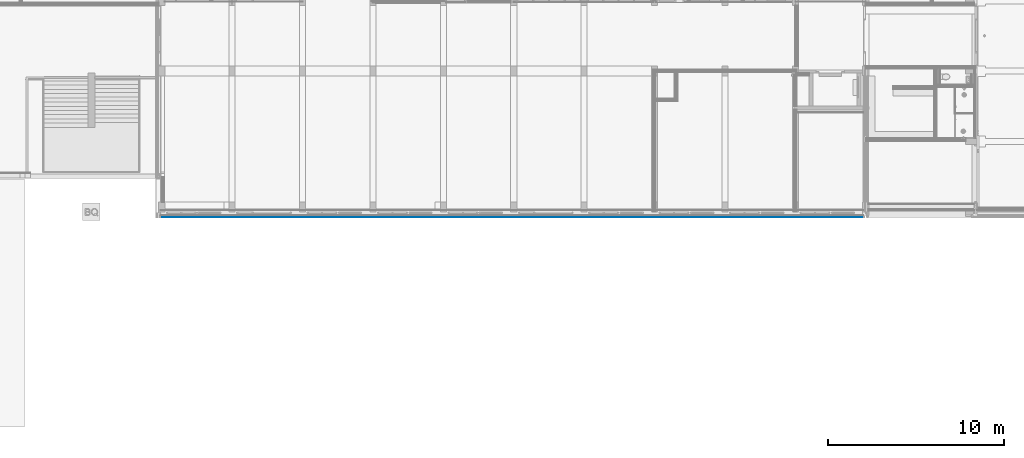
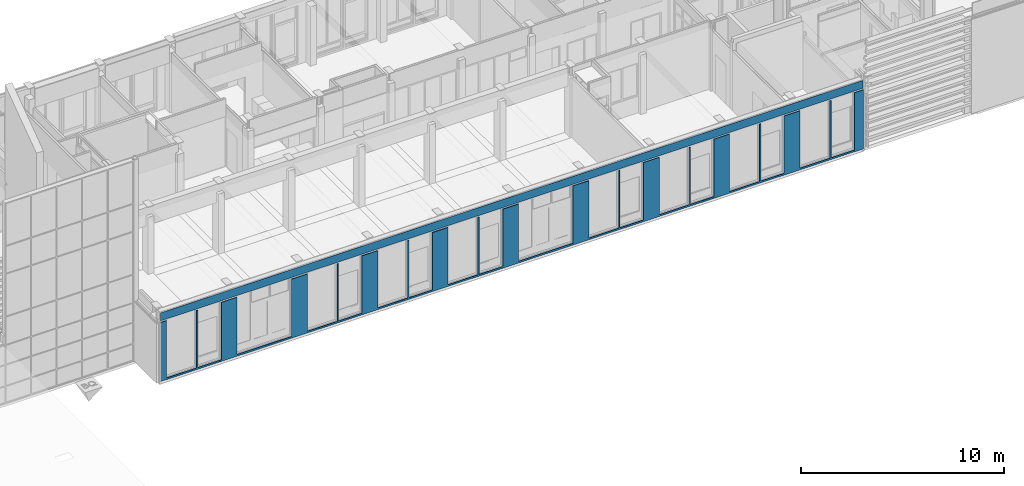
# One storey, part 53 of 109: 1 building element part, 18 openings, 1 element without a shape of its own.
"""IFC2X3 building model written with IfcOpenShell, lengths in millimetres."""

from ifc_helpers import new_model, entity, si_unit, converted_unit, derived_unit, money_unit, direction, frame, origin_with_axes, place, context, subcontext, project, spatial, faceted_brep, material, type_object, element, aggregate, save


model = new_model("IFC2X3")

# Units and contexts
model_context = context("Model", 3, precision=0.01, world=origin_with_axes(), true_north=direction((0.0, 1.0)))
body_context = subcontext(model_context, "Body", "Model", "MODEL_VIEW")
ifc_project = project(units=[si_unit("LENGTHUNIT", "METRE", prefix="MILLI"), si_unit("AREAUNIT", "SQUARE_METRE"), si_unit("VOLUMEUNIT", "CUBIC_METRE"), converted_unit("PLANEANGLEUNIT", "DEGREE", entity("IfcPlaneAngleMeasure", 0.0174532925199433), si_unit("PLANEANGLEUNIT", "RADIAN"), dimensions=[0, 0, 0, 0, 0, 0, 0]), money_unit("EUR"), converted_unit("TIMEUNIT", "Year", entity("IfcTimeMeasure", 31557600.0), si_unit("TIMEUNIT", "SECOND"), dimensions=[0, 0, 1, 0, 0, 0, 0]), si_unit("MASSUNIT", "GRAM", prefix="KILO"), si_unit("THERMODYNAMICTEMPERATUREUNIT", "DEGREE_CELSIUS"), si_unit("LUMINOUSINTENSITYUNIT", "LUMEN"), si_unit("ENERGYUNIT", "JOULE", prefix="MEGA"), derived_unit("THERMALCONDUCTANCEUNIT", [(si_unit("POWERUNIT", "WATT"), 1), (si_unit("LENGTHUNIT", "METRE"), -1), (si_unit("THERMODYNAMICTEMPERATUREUNIT", "KELVIN"), -1)]), derived_unit("SPECIFICHEATCAPACITYUNIT", [(si_unit("ENERGYUNIT", "JOULE"), 1), (si_unit("MASSUNIT", "GRAM", prefix="KILO"), -1), (si_unit("THERMODYNAMICTEMPERATUREUNIT", "KELVIN"), -1)]), derived_unit("MASSDENSITYUNIT", [(si_unit("MASSUNIT", "GRAM", prefix="KILO"), 1), (si_unit("VOLUMEUNIT", "CUBIC_METRE"), -1)])], contexts=[model_context])

# Site, building, storey
site_placement = place(None, origin_with_axes())
site = spatial("IfcSite", under=ifc_project, at=site_placement, Name="<site naam>", CompositionType="ELEMENT")
building_placement = place(site_placement, origin_with_axes())
building = spatial("IfcBuilding", under=site, at=building_placement, Name="<Naam gebouw>", CompositionType="ELEMENT")
storey_placement = place(building_placement, origin_with_axes())
storey = spatial("IfcBuildingStorey", under=building, at=storey_placement, Name="00 Begane grond", CompositionType="ELEMENT", Elevation=0.0)

# Wall, openings, building element part
wall_type = type_object("IfcWallType", Name="HSB_285 gevelbeplating 420", PredefinedType="NOTDEFINED")
wall_placement = place(storey_placement, frame((51865.00000000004, -297.9999999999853, 0.0), z_axis=(0.0, 0.0, 1.0), x_axis=(-1.0, 0.0, 0.0)))
wall = element("IfcWall", 1, at=wall_placement, inside=storey, type_object=wall_type, Name="21_Binnenwand_HSB_285")
opening_1_placement = place(wall_placement, frame((37163.99999999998, 0.0, 100.0), z_axis=(0.0, 0.0, 1.0), x_axis=(1.0, 0.0, 0.0)))
element("IfcOpeningElement", 2, at=opening_1_placement, cuts=wall, Name="21_BU-A-01b_305", context=body_context, shape_type="Brep", body=[
    faceted_brep([(-663.0000000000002, -212.9999999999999, 0.0), (-663.0000000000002, -212.9999999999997, 3450.0), (-663.0000000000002, 1.000000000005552, 3450.0), (-663.0000000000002, 1.00000000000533, 0.0), (-663.0000000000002, -421.0000000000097, 0.0), (-663.0000000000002, -421.0000000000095, 3450.0), (663.0000000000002, -212.9999999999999, 3450.0), (663.0000000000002, 1.000000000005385, 3450.0), (663.0000000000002, 1.000000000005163, 0.0), (663.0000000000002, -213.0000000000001, 0.0), (663.0000000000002, -421.0000000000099, 0.0), (663.0000000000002, -421.0000000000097, 3450.0)], [[[0, 1, 2, 3]], [[1, 0, 4, 5]], [[1, 6, 7, 2]], [[7, 8, 3, 2]], [[9, 0, 3, 8]], [[0, 9, 10, 4]], [[5, 4, 10, 11]], [[6, 1, 5, 11]], [[6, 9, 8, 7]], [[9, 6, 11, 10]]]),
])
opening_2_placement = place(wall_placement, frame((38753.9999887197, 0.0, 100.0), z_axis=(0.0, 0.0, 1.0), x_axis=(1.0, 0.0, 0.0)))
element("IfcOpeningElement", 3, at=opening_2_placement, cuts=wall, Name="21_BU-A-01a_305", context=body_context, shape_type="Brep", body=[
    faceted_brep([(-850.9999999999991, -212.9999999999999, 0.0), (-850.9999999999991, -212.9999999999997, 3450.0), (-850.9999999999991, 1.000000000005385, 3450.0), (-850.9999999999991, 1.000000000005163, 0.0), (-850.9999999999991, -421.0000000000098, 0.0), (-850.9999999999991, -421.0000000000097, 3450.0), (850.9999999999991, -212.9999999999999, 3450.0), (851.0000000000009, 1.000000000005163, 3450.0), (851.0000000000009, 1.000000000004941, 0.0), (850.9999999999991, -213.0000000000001, 0.0), (850.9999999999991, -421.00000000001, 0.0), (850.9999999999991, -421.0000000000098, 3450.0)], [[[0, 1, 2, 3]], [[1, 0, 4, 5]], [[1, 6, 7, 2]], [[7, 8, 3, 2]], [[9, 0, 3, 8]], [[0, 9, 10, 4]], [[5, 4, 10, 11]], [[6, 1, 5, 11]], [[6, 9, 8, 7]], [[9, 6, 11, 10]]]),
])
opening_3_placement = place(wall_placement, frame((29164.04998845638, 0.0, 100.0), z_axis=(0.0, 0.0, 1.0), x_axis=(1.0, 0.0, 0.0)))
element("IfcOpeningElement", 4, at=opening_3_placement, cuts=wall, Name="21_BU-A-01b_305", context=body_context, shape_type="Brep", body=[
    faceted_brep([(-663.0000000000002, -212.9999999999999, 0.0), (-663.0000000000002, -212.9999999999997, 3450.0), (-663.0000000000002, 1.000000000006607, 3450.0), (-663.0000000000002, 1.000000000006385, 0.0), (-663.0000000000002, -421.0000000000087, 0.0), (-663.0000000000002, -421.0000000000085, 3450.0), (663.0000000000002, -212.9999999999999, 3450.0), (663.0000000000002, 1.000000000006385, 3450.0), (663.0000000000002, 1.000000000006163, 0.0), (663.0000000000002, -213.0000000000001, 0.0), (663.0000000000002, -421.0000000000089, 0.0), (663.0000000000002, -421.0000000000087, 3450.0)], [[[0, 1, 2, 3]], [[1, 0, 4, 5]], [[1, 6, 7, 2]], [[7, 8, 3, 2]], [[9, 0, 3, 8]], [[0, 9, 10, 4]], [[5, 4, 10, 11]], [[6, 1, 5, 11]], [[6, 9, 8, 7]], [[9, 6, 11, 10]]]),
])
opening_4_placement = place(wall_placement, frame((26754.00000000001, 0.0, 100.0), z_axis=(0.0, 0.0, 1.0), x_axis=(1.0, 0.0, 0.0)))
element("IfcOpeningElement", 5, at=opening_4_placement, cuts=wall, Name="21_BU-A-01a_305", context=body_context, shape_type="Brep", body=[
    faceted_brep([(-850.9999999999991, -212.9999999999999, 0.0), (-850.9999999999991, -212.9999999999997, 3450.0), (-850.9999999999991, 1.000000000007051, 3450.0), (-850.9999999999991, 1.000000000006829, 0.0), (-850.9999999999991, -421.0000000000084, 0.0), (-850.9999999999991, -421.0000000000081, 3450.0), (850.9999999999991, -212.9999999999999, 3450.0), (850.9999999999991, 1.000000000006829, 3450.0), (850.9999999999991, 1.000000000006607, 0.0), (850.9999999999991, -213.0000000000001, 0.0), (850.9999999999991, -421.0000000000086, 0.0), (850.9999999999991, -421.0000000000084, 3450.0)], [[[0, 1, 2, 3]], [[1, 0, 4, 5]], [[1, 6, 7, 2]], [[7, 8, 3, 2]], [[9, 0, 3, 8]], [[0, 9, 10, 4]], [[5, 4, 10, 11]], [[6, 1, 5, 11]], [[6, 9, 8, 7]], [[9, 6, 11, 10]]]),
])
opening_5_placement = place(wall_placement, frame((25163.98053643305, 0.0, 100.0), z_axis=(0.0, 0.0, 1.0), x_axis=(1.0, 0.0, 0.0)))
element("IfcOpeningElement", 6, at=opening_5_placement, cuts=wall, Name="21_BU-A-01b_305", context=body_context, shape_type="Brep", body=[
    faceted_brep([(-663.0000000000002, -212.9999999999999, 0.0), (-663.0000000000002, -212.9999999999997, 3450.0), (-663.0000000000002, 1.000000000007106, 3450.0), (-663.0000000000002, 1.000000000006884, 0.0), (-663.0000000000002, -421.0000000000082, 0.0), (-663.0000000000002, -421.000000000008, 3450.0), (663.0000000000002, -212.9999999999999, 3450.0), (663.0000000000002, 1.00000000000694, 3450.0), (663.0000000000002, 1.000000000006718, 0.0), (663.0000000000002, -213.0000000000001, 0.0), (663.0000000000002, -421.0000000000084, 0.0), (663.0000000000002, -421.0000000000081, 3450.0)], [[[0, 1, 2, 3]], [[1, 0, 4, 5]], [[1, 6, 7, 2]], [[7, 8, 3, 2]], [[9, 0, 3, 8]], [[0, 9, 10, 4]], [[5, 4, 10, 11]], [[6, 1, 5, 11]], [[6, 9, 8, 7]], [[9, 6, 11, 10]]]),
])
opening_6_placement = place(wall_placement, frame((13164.00001128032, 0.0, 100.0), z_axis=(0.0, 0.0, 1.0), x_axis=(1.0, 0.0, 0.0)))
element("IfcOpeningElement", 7, at=opening_6_placement, cuts=wall, Name="21_BU-A-01b_305", context=body_context, shape_type="Brep", body=[
    faceted_brep([(-662.9999999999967, -212.9999999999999, 0.0), (-662.9999999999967, -212.9999999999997, 3450.0), (-662.9999999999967, 1.000000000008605, 3450.0), (-662.9999999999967, 1.000000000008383, 0.0), (-662.9999999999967, -421.0000000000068, 0.0), (-662.9999999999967, -421.0000000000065, 3450.0), (662.9999999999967, -212.9999999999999, 3450.0), (662.9999999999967, 1.000000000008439, 3450.0), (662.9999999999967, 1.000000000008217, 0.0), (662.9999999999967, -213.0000000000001, 0.0), (662.9999999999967, -421.0000000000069, 0.0), (662.9999999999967, -421.0000000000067, 3450.0)], [[[0, 1, 2, 3]], [[1, 0, 4, 5]], [[1, 6, 7, 2]], [[7, 8, 3, 2]], [[9, 0, 3, 8]], [[0, 9, 10, 4]], [[5, 4, 10, 11]], [[6, 1, 5, 11]], [[6, 9, 8, 7]], [[9, 6, 11, 10]]]),
])
opening_7_placement = place(wall_placement, frame((21164.00000000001, 0.0, 100.0), z_axis=(0.0, 0.0, 1.0), x_axis=(1.0, 0.0, 0.0)))
element("IfcOpeningElement", 8, at=opening_7_placement, cuts=wall, Name="21_BU-A-01b_305", context=body_context, shape_type="Brep", body=[
    faceted_brep([(-663.0000000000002, -212.9999999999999, 0.0), (-663.0000000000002, -212.9999999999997, 3450.0), (-663.0000000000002, 1.000000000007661, 3450.0), (-663.0000000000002, 1.000000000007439, 0.0), (-663.0000000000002, -421.0000000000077, 0.0), (-663.0000000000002, -421.0000000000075, 3450.0), (663.0000000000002, -212.9999999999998, 3450.0), (663.0000000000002, 1.000000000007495, 3450.0), (663.0000000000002, 1.000000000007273, 0.0), (663.0000000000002, -213.0000000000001, 0.0), (663.0000000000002, -421.0000000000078, 0.0), (663.0000000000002, -421.0000000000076, 3450.0)], [[[0, 1, 2, 3]], [[1, 0, 4, 5]], [[1, 6, 7, 2]], [[7, 8, 3, 2]], [[9, 0, 3, 8]], [[0, 9, 10, 4]], [[5, 4, 10, 11]], [[6, 1, 5, 11]], [[6, 9, 8, 7]], [[9, 6, 11, 10]]]),
])
opening_8_placement = place(wall_placement, frame((22753.98053643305, 0.0, 100.0), z_axis=(0.0, 0.0, 1.0), x_axis=(1.0, 0.0, 0.0)))
element("IfcOpeningElement", 9, at=opening_8_placement, cuts=wall, Name="21_BU-A-01a_305", context=body_context, shape_type="Brep", body=[
    faceted_brep([(-850.9999999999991, -212.9999999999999, 0.0), (-850.9999999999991, -212.9999999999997, 3450.0), (-850.9999999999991, 1.000000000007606, 3450.0), (-850.9999999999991, 1.000000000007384, 0.0), (-850.9999999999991, -421.0000000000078, 0.0), (-850.9999999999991, -421.0000000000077, 3450.0), (850.9999999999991, -212.9999999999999, 3450.0), (850.9999999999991, 1.000000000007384, 3450.0), (850.9999999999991, 1.000000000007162, 0.0), (850.9999999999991, -213.0000000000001, 0.0), (850.9999999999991, -421.0000000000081, 0.0), (850.9999999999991, -421.0000000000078, 3450.0)], [[[0, 1, 2, 3]], [[1, 0, 4, 5]], [[1, 6, 7, 2]], [[7, 8, 3, 2]], [[9, 0, 3, 8]], [[0, 9, 10, 4]], [[5, 4, 10, 11]], [[6, 1, 5, 11]], [[6, 9, 8, 7]], [[9, 6, 11, 10]]]),
])
opening_9_placement = place(wall_placement, frame((14754.00000000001, 0.0, 100.0), z_axis=(0.0, 0.0, 1.0), x_axis=(1.0, 0.0, 0.0)))
element("IfcOpeningElement", 10, at=opening_9_placement, cuts=wall, Name="21_BU-A-01a_305", context=body_context, shape_type="Brep", body=[
    faceted_brep([(-850.9999999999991, -212.9999999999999, 0.0), (-850.9999999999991, -212.9999999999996, 3450.0), (-850.9999999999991, 1.000000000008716, 3450.0), (-850.9999999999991, 1.000000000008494, 0.0), (-850.9999999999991, -421.0000000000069, 0.0), (-850.9999999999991, -421.0000000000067, 3450.0), (850.9999999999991, -212.9999999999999, 3450.0), (850.9999999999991, 1.000000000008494, 3450.0), (850.9999999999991, 1.000000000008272, 0.0), (850.9999999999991, -213.0000000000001, 0.0), (850.9999999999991, -421.000000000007, 0.0), (850.9999999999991, -421.0000000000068, 3450.0)], [[[0, 1, 2, 3]], [[1, 0, 4, 5]], [[1, 6, 7, 2]], [[7, 8, 3, 2]], [[9, 0, 3, 8]], [[0, 9, 10, 4]], [[5, 4, 10, 11]], [[6, 1, 5, 11]], [[6, 9, 8, 7]], [[9, 6, 11, 10]]]),
])
opening_10_placement = place(wall_placement, frame((10754.00000000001, 0.0, 100.0), z_axis=(0.0, 0.0, 1.0), x_axis=(1.0, 0.0, 0.0)))
element("IfcOpeningElement", 11, at=opening_10_placement, cuts=wall, Name="21_BU-A-01a_305", context=body_context, shape_type="Brep", body=[
    faceted_brep([(-850.9999999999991, -212.9999999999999, 0.0), (-850.9999999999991, -212.9999999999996, 3450.0), (-850.9999999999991, 1.000000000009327, 3450.0), (-850.9999999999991, 1.000000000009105, 0.0), (-850.9999999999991, -421.0000000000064, 0.0), (-850.9999999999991, -421.0000000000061, 3450.0), (850.9999999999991, -212.9999999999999, 3450.0), (850.9999999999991, 1.000000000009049, 3450.0), (850.9999999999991, 1.000000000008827, 0.0), (850.9999999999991, -213.0000000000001, 0.0), (850.9999999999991, -421.0000000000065, 0.0), (850.9999999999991, -421.0000000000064, 3450.0)], [[[0, 1, 2, 3]], [[1, 0, 4, 5]], [[1, 6, 7, 2]], [[7, 8, 3, 2]], [[9, 0, 3, 8]], [[0, 9, 10, 4]], [[5, 4, 10, 11]], [[6, 1, 5, 11]], [[6, 9, 8, 7]], [[9, 6, 11, 10]]]),
])
opening_11_placement = place(wall_placement, frame((5164.000011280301, 0.0, 100.0), z_axis=(0.0, 0.0, 1.0), x_axis=(1.0, 0.0, 0.0)))
element("IfcOpeningElement", 12, at=opening_11_placement, cuts=wall, Name="21_BU-A-01b_305", context=body_context, shape_type="Brep", body=[
    faceted_brep([(-662.9999999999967, -212.9999999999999, 0.0), (-662.9999999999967, -212.9999999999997, 3450.0), (-662.9999999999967, 1.00000000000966, 3450.0), (-662.9999999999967, 1.000000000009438, 0.0), (-662.9999999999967, -421.0000000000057, 0.0), (-662.9999999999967, -421.0000000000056, 3450.0), (662.9999999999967, -212.9999999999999, 3450.0), (662.9999999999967, 1.000000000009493, 3450.0), (662.9999999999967, 1.000000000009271, 0.0), (662.9999999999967, -213.0000000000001, 0.0), (662.9999999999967, -421.0000000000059, 0.0), (662.9999999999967, -421.0000000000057, 3450.0)], [[[0, 1, 2, 3]], [[1, 0, 4, 5]], [[1, 6, 7, 2]], [[7, 8, 3, 2]], [[9, 0, 3, 8]], [[0, 9, 10, 4]], [[5, 4, 10, 11]], [[6, 1, 5, 11]], [[6, 9, 8, 7]], [[9, 6, 11, 10]]]),
])
opening_12_placement = place(wall_placement, frame((6754.000000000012, 0.0, 100.0), z_axis=(0.0, 0.0, 1.0), x_axis=(1.0, 0.0, 0.0)))
element("IfcOpeningElement", 13, at=opening_12_placement, cuts=wall, Name="21_BU-A-01a_305", context=body_context, shape_type="Brep", body=[
    faceted_brep([(-850.9999999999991, -212.9999999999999, 0.0), (-850.9999999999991, -212.9999999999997, 3450.0), (-850.9999999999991, 1.000000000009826, 3450.0), (-850.9999999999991, 1.000000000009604, 0.0), (-850.9999999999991, -421.0000000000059, 0.0), (-850.9999999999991, -421.0000000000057, 3450.0), (850.9999999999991, -212.9999999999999, 3450.0), (850.9999999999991, 1.000000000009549, 3450.0), (850.9999999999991, 1.000000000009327, 0.0), (850.9999999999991, -213.0000000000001, 0.0), (850.9999999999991, -421.0000000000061, 0.0), (850.9999999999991, -421.0000000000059, 3450.0)], [[[0, 1, 2, 3]], [[1, 0, 4, 5]], [[1, 6, 7, 2]], [[7, 8, 3, 2]], [[9, 0, 3, 8]], [[0, 9, 10, 4]], [[5, 4, 10, 11]], [[6, 1, 5, 11]], [[6, 9, 8, 7]], [[9, 6, 11, 10]]]),
])
opening_13_placement = place(wall_placement, frame((1164.000011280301, 0.0, 100.0), z_axis=(0.0, 0.0, 1.0), x_axis=(1.0, 0.0, 0.0)))
element("IfcOpeningElement", 14, at=opening_13_placement, cuts=wall, Name="21_BU-A-01b_305", context=body_context, shape_type="Brep", body=[
    faceted_brep([(-662.9999999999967, -212.9999999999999, 0.0), (-662.9999999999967, -212.9999999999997, 3450.0), (-662.9999999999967, 1.000000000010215, 3450.0), (-662.9999999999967, 1.000000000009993, 0.0), (-662.9999999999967, -421.0000000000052, 0.0), (-662.9999999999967, -421.000000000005, 3450.0), (662.9999999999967, -212.9999999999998, 3450.0), (662.9999999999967, 1.000000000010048, 3450.0), (662.9999999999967, 1.000000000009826, 0.0), (662.9999999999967, -213.0, 0.0), (662.9999999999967, -421.0000000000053, 0.0), (662.9999999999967, -421.0000000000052, 3450.0)], [[[0, 1, 2, 3]], [[1, 0, 4, 5]], [[1, 6, 7, 2]], [[7, 8, 3, 2]], [[9, 0, 3, 8]], [[0, 9, 10, 4]], [[5, 4, 10, 11]], [[6, 1, 5, 11]], [[6, 9, 8, 7]], [[9, 6, 11, 10]]]),
])
opening_14_placement = place(wall_placement, frame((2754.000000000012, 0.0, 100.0), z_axis=(0.0, 0.0, 1.0), x_axis=(1.0, 0.0, 0.0)))
element("IfcOpeningElement", 15, at=opening_14_placement, cuts=wall, Name="21_BU-A-01a_305", context=body_context, shape_type="Brep", body=[
    faceted_brep([(-850.9999999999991, -212.9999999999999, 0.0), (-850.9999999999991, -212.9999999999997, 3450.0), (-850.9999999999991, 1.000000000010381, 3450.0), (-850.9999999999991, 1.000000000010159, 0.0), (-850.9999999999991, -421.0000000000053, 0.0), (-850.9999999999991, -421.0000000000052, 3450.0), (850.9999999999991, -212.9999999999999, 3450.0), (850.9999999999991, 1.000000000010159, 3450.0), (850.9999999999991, 1.000000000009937, 0.0), (850.9999999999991, -213.0000000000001, 0.0), (850.9999999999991, -421.0000000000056, 0.0), (850.9999999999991, -421.0000000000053, 3450.0)], [[[0, 1, 2, 3]], [[1, 0, 4, 5]], [[1, 6, 7, 2]], [[7, 8, 3, 2]], [[9, 0, 3, 8]], [[0, 9, 10, 4]], [[5, 4, 10, 11]], [[6, 1, 5, 11]], [[6, 9, 8, 7]], [[9, 6, 11, 10]]]),
])
opening_15_placement = place(wall_placement, frame((9164.000011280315, 0.0, 100.0), z_axis=(0.0, 0.0, 1.0), x_axis=(1.0, 0.0, 0.0)))
element("IfcOpeningElement", 16, at=opening_15_placement, cuts=wall, Name="21_BU-A-01b_305", context=body_context, shape_type="Brep", body=[
    faceted_brep([(-662.9999999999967, -212.9999999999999, 0.0), (-662.9999999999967, -212.9999999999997, 3450.0), (-662.9999999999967, 1.000000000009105, 3450.0), (-662.9999999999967, 1.000000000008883, 0.0), (-662.9999999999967, -421.0000000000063, 0.0), (-662.9999999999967, -421.000000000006, 3450.0), (662.9999999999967, -212.9999999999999, 3450.0), (662.9999999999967, 1.000000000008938, 3450.0), (662.9999999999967, 1.000000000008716, 0.0), (662.9999999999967, -213.0000000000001, 0.0), (662.9999999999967, -421.0000000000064, 0.0), (662.9999999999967, -421.0000000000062, 3450.0)], [[[0, 1, 2, 3]], [[1, 0, 4, 5]], [[1, 6, 7, 2]], [[7, 8, 3, 2]], [[9, 0, 3, 8]], [[0, 9, 10, 4]], [[5, 4, 10, 11]], [[6, 1, 5, 11]], [[6, 9, 8, 7]], [[9, 6, 11, 10]]]),
])
opening_16_placement = place(wall_placement, frame((34053.00007085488, 0.0, 103.0000398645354), z_axis=(0.0, 0.0, 1.0), x_axis=(1.0, 0.0, 0.0)))
element("IfcOpeningElement", 17, at=opening_16_placement, cuts=wall, Name="21_BU-C-01_305", context=body_context, shape_type="Brep", body=[
    faceted_brep([(-1551.999929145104, -205.0, 0.0), (-1551.999929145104, -204.9999999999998, 3451.998648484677), (-1551.999929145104, 1.000000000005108, 3451.998648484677), (-1551.999929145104, 1.000000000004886, 0.0), (-1551.999929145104, -421.0000000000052, 0.0), (-1551.999929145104, -421.000000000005, 3451.998648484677), (1551.999929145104, -204.9999999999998, 3451.998648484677), (1551.999929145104, 1.000000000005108, 3451.998648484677), (1551.999929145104, 1.000000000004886, 0.0), (1551.999929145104, -205.0, 0.0), (1551.999929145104, -421.0000000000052, 0.0), (1551.999929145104, -421.0000000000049, 3451.998648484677)], [[[0, 1, 2, 3]], [[1, 0, 4, 5]], [[1, 6, 7, 2]], [[7, 8, 3, 2]], [[9, 0, 3, 8]], [[0, 9, 10, 4]], [[5, 4, 10, 11]], [[6, 1, 5, 11]], [[6, 9, 8, 7]], [[9, 6, 11, 10]]]),
])
opening_17_placement = place(wall_placement, frame((18053.00484185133, 0.0, 103.0000398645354), z_axis=(0.0, 0.0, 1.0), x_axis=(1.0, 0.0, 0.0)))
element("IfcOpeningElement", 18, at=opening_17_placement, cuts=wall, Name="21_BU-C-01_305", context=body_context, shape_type="Brep", body=[
    faceted_brep([(-1551.999929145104, -205.0, 0.0), (-1551.999929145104, -204.9999999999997, 3451.998648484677), (-1551.999929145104, 1.000000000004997, 3451.998648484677), (-1551.999929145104, 1.00000000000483, 0.0), (-1551.999929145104, -421.0000000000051, 0.0), (-1551.999929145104, -421.0000000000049, 3451.998648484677), (1551.999929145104, -204.9999999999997, 3451.998648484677), (1551.999929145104, 1.000000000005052, 3451.998648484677), (1551.999929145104, 1.00000000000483, 0.0), (1551.999929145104, -205.0, 0.0), (1551.999929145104, -421.0000000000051, 0.0), (1551.999929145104, -421.0000000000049, 3451.998648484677)], [[[0, 1, 2, 3]], [[1, 0, 4, 5]], [[1, 6, 7, 2]], [[7, 8, 3, 2]], [[9, 0, 3, 8]], [[0, 9, 10, 4]], [[5, 4, 10, 11]], [[6, 1, 5, 11]], [[6, 9, 8, 7]], [[9, 6, 11, 10]]]),
])
opening_18_placement = place(wall_placement, frame((30754.04506446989, 0.0, 100.0), z_axis=(0.0, 0.0, 1.0), x_axis=(1.0, 0.0, 0.0)))
element("IfcOpeningElement", 19, at=opening_18_placement, cuts=wall, Name="21_BU-A-01a_305", context=body_context, shape_type="Brep", body=[
    faceted_brep([(-850.9999999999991, -212.9999999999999, 0.0), (-850.9999999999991, -212.9999999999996, 3450.0), (-850.9999999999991, 1.000000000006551, 3450.0), (-850.9999999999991, 1.000000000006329, 0.0), (-850.9999999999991, -421.0000000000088, 0.0), (-850.9999999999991, -421.0000000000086, 3450.0), (850.9999999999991, -212.9999999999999, 3450.0), (850.9999999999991, 1.000000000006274, 3450.0), (850.9999999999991, 1.000000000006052, 0.0), (850.9999999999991, -213.0000000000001, 0.0), (850.9999999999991, -421.000000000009, 0.0), (850.9999999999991, -421.0000000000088, 3450.0)], [[[0, 1, 2, 3]], [[1, 0, 4, 5]], [[1, 6, 7, 2]], [[7, 8, 3, 2]], [[9, 0, 3, 8]], [[0, 9, 10, 4]], [[5, 4, 10, 11]], [[6, 1, 5, 11]], [[6, 9, 8, 7]], [[9, 6, 11, 10]]]),
])
ifc_material = material(Name="metaal - Aluminium gevelplaat")
building_element_part_placement = place(wall_placement, origin_with_axes())
building_element_part = element("IfcBuildingElementPart", 20, at=building_element_part_placement, material=ifc_material, Name="metaal - Aluminium gevelplaat", context=body_context, shape_type="Brep", body=[
    faceted_brep([(36590.00107531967, -39.99999999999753, 3549.999998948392), (39930.00004797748, -39.99999999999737, 3549.999998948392), (39930.0, -32.98310174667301, 3549.999998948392), (39930.0, -2.983110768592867, 3549.999998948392), (39930.00004797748, 0.0, 3549.999998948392), (36590.00107531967, 0.0, 3549.999998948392), (36590.00107531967, -39.99999999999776, 0.0), (39930.00004797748, -39.99999999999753, 0.0), (39930.00004797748, 0.0, 0.0), (36590.00107531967, 0.0, 0.0)], [[[0, 1, 2, 3, 4, 5]], [[1, 0, 6, 7]], [[2, 1, 7, 8, 4, 3]], [[5, 4, 8, 9]], [[0, 5, 9, 6]], [[7, 6, 9, 8]]]),
    faceted_brep([(35711.00000460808, -39.99999999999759, 3549.999998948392), (36589.00107531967, -39.99999999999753, 3549.999998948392), (36589.00107531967, 0.0, 3549.999998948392), (35711.00000460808, 0.0, 3549.999998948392), (35711.00000460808, -39.99999999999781, 0.0), (36589.00107531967, -39.99999999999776, 0.0), (36589.00107531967, 0.0, 0.0), (35711.00000460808, 0.0, 0.0)], [[[0, 1, 2, 3]], [[1, 0, 4, 5]], [[1, 5, 6, 2]], [[3, 2, 6, 7]], [[0, 3, 7, 4]], [[5, 4, 7, 6]]]),
    faceted_brep([(32590.00107531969, -39.99999999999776, 3549.999998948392), (35710.00000460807, -39.99999999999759, 3549.999998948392), (35710.00000460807, 0.0, 3549.999998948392), (32590.00107531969, 0.0, 3549.999998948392), (32590.00107531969, -39.99999999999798, 0.0), (35710.00000460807, -39.99999999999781, 0.0), (35710.00000460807, 0.0, 0.0), (32590.00107531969, 0.0, 0.0)], [[[0, 1, 2, 3]], [[1, 0, 4, 5]], [[1, 5, 6, 2]], [[3, 2, 6, 7]], [[0, 3, 7, 4]], [[7, 6, 5, 4]]]),
    faceted_brep([(31711.0000046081, -39.99999999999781, 3549.999998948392), (32589.00107531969, -39.99999999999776, 3549.999998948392), (32589.00107531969, 0.0, 3549.999998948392), (31711.0000046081, 0.0, 3549.999998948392), (31711.0000046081, -39.99999999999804, 0.0), (32589.00107531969, -39.99999999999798, 0.0), (32589.00107531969, 0.0, 0.0), (31711.0000046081, 0.0, 0.0)], [[[0, 1, 2, 3]], [[1, 0, 4, 5]], [[1, 5, 6, 2]], [[3, 2, 6, 7]], [[0, 3, 7, 4]], [[5, 4, 7, 6]]]),
    faceted_brep([(28590.0010753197, -39.99999999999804, 3549.999998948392), (31710.0000046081, -39.99999999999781, 3549.999998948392), (31710.0000046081, 0.0, 3549.999998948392), (28590.0010753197, 0.0, 3549.999998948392), (28590.0010753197, -39.99999999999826, 0.0), (31710.0000046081, -39.99999999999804, 0.0), (31710.0000046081, 0.0, 0.0), (28590.0010753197, 0.0, 0.0)], [[[0, 1, 2, 3]], [[1, 0, 4, 5]], [[1, 5, 6, 2]], [[3, 2, 6, 7]], [[0, 3, 7, 4]], [[7, 6, 5, 4]]]),
    faceted_brep([(27711.00000460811, -39.99999999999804, 3549.999998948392), (28589.0010753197, -39.99999999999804, 3549.999998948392), (28589.0010753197, 0.0, 3549.999998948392), (27711.00000460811, 0.0, 3549.999998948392), (27711.00000460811, -39.99999999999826, 0.0), (28589.0010753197, -39.99999999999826, 0.0), (28589.0010753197, 0.0, 0.0), (27711.00000460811, 0.0, 0.0)], [[[0, 1, 2, 3]], [[1, 0, 4, 5]], [[1, 5, 6, 2]], [[3, 2, 6, 7]], [[0, 3, 7, 4]], [[5, 4, 7, 6]]]),
    faceted_brep([(24589.98161175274, -39.99999999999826, 3549.999998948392), (27710.0000046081, -39.99999999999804, 3549.999998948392), (27710.0000046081, 0.0, 3549.999998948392), (24589.98161175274, 0.0, 3549.999998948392), (24589.98161175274, -39.99999999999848, 0.0), (27710.0000046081, -39.99999999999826, 0.0), (27710.0000046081, 0.0, 0.0), (24589.98161175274, 0.0, 0.0)], [[[0, 1, 2, 3]], [[1, 0, 4, 5]], [[1, 5, 6, 2]], [[3, 2, 6, 7]], [[0, 3, 7, 4]], [[5, 4, 7, 6]]]),
    faceted_brep([(23710.98054104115, -39.99999999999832, 3549.999998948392), (24588.98161175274, -39.99999999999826, 3549.999998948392), (24588.98161175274, 0.0, 3549.999998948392), (23710.98054104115, 0.0, 3549.999998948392), (23710.98054104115, -39.99999999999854, 0.0), (24588.98161175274, -39.99999999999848, 0.0), (24588.98161175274, 0.0, 0.0), (23710.98054104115, 0.0, 0.0)], [[[0, 1, 2, 3]], [[1, 0, 4, 5]], [[1, 5, 6, 2]], [[3, 2, 6, 7]], [[0, 3, 7, 4]], [[5, 4, 7, 6]]]),
    faceted_brep([(20590.0010753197, -39.99999999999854, 3549.999998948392), (23709.98054104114, -39.99999999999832, 3549.999998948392), (23709.98054104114, 0.0, 3549.999998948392), (20590.0010753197, 0.0, 3549.999998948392), (20590.0010753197, -39.99999999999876, 0.0), (23709.98054104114, -39.99999999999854, 0.0), (23709.98054104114, 0.0, 0.0), (20590.0010753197, 0.0, 0.0)], [[[0, 1, 2, 3]], [[1, 0, 4, 5]], [[1, 5, 6, 2]], [[3, 2, 6, 7]], [[0, 3, 7, 4]], [[7, 6, 5, 4]]]),
    faceted_brep([(19711.0000046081, -39.99999999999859, 3549.999998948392), (20589.0010753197, -39.99999999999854, 3549.999998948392), (20589.0010753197, 0.0, 3549.999998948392), (19711.0000046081, 0.0, 3549.999998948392), (19711.0000046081, -39.99999999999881, 0.0), (20589.0010753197, -39.99999999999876, 0.0), (20589.0010753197, 0.0, 0.0), (19711.0000046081, 0.0, 0.0)], [[[0, 1, 2, 3]], [[1, 0, 4, 5]], [[1, 5, 6, 2]], [[3, 2, 6, 7]], [[0, 3, 7, 4]], [[5, 4, 7, 6]]]),
    faceted_brep([(16590.00107531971, -39.99999999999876, 3549.999998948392), (19710.0000046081, -39.99999999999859, 3549.999998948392), (19710.0000046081, 0.0, 3549.999998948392), (16590.00107531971, 0.0, 3549.999998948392), (16590.00107531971, -39.99999999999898, 0.0), (19710.0000046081, -39.99999999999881, 0.0), (19710.0000046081, 0.0, 0.0), (16590.00107531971, 0.0, 0.0)], [[[0, 1, 2, 3]], [[1, 0, 4, 5]], [[1, 5, 6, 2]], [[3, 2, 6, 7]], [[0, 3, 7, 4]], [[5, 4, 7, 6]]]),
    faceted_brep([(15711.00000460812, -39.99999999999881, 3549.999998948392), (16589.00107531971, -39.99999999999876, 3549.999998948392), (16589.00107531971, 0.0, 3549.999998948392), (15711.00000460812, 0.0, 3549.999998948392), (15711.00000460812, -39.99999999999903, 0.0), (16589.00107531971, -39.99999999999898, 0.0), (16589.00107531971, 0.0, 0.0), (15711.00000460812, 0.0, 0.0)], [[[0, 1, 2, 3]], [[1, 0, 4, 5]], [[1, 5, 6, 2]], [[3, 2, 6, 7]], [[0, 3, 7, 4]], [[5, 4, 7, 6]]]),
    faceted_brep([(12590.00107531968, -39.99999999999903, 3549.999998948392), (15710.00000460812, -39.99999999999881, 3549.999998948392), (15710.00000460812, 0.0, 3549.999998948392), (12590.00107531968, 0.0, 3549.999998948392), (12590.00107531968, -39.99999999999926, 0.0), (15710.00000460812, -39.99999999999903, 0.0), (15710.00000460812, 0.0, 0.0), (12590.00107531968, 0.0, 0.0)], [[[0, 1, 2, 3]], [[1, 0, 4, 5]], [[1, 5, 6, 2]], [[3, 2, 6, 7]], [[0, 3, 7, 4]], [[5, 4, 7, 6]]]),
    faceted_brep([(11711.00000460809, -39.99999999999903, 3549.999998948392), (12589.00107531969, -39.99999999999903, 3549.999998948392), (12589.00107531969, 0.0, 3549.999998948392), (11711.00000460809, 0.0, 3549.999998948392), (11711.00000460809, -39.99999999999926, 0.0), (12589.00107531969, -39.99999999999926, 0.0), (12589.00107531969, 0.0, 0.0), (11711.00000460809, 0.0, 0.0)], [[[0, 1, 2, 3]], [[1, 0, 4, 5]], [[1, 5, 6, 2]], [[3, 2, 6, 7]], [[0, 3, 7, 4]], [[5, 4, 7, 6]]]),
    faceted_brep([(8590.001075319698, -39.99999999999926, 3549.999998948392), (11710.00000460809, -39.99999999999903, 3549.999998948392), (11710.00000460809, 0.0, 3549.999998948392), (8590.001075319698, 0.0, 3549.999998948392), (8590.001075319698, -39.99999999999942, 0.0), (11710.00000460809, -39.99999999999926, 0.0), (11710.00000460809, 0.0, 0.0), (8590.001075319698, 0.0, 0.0)], [[[0, 1, 2, 3]], [[1, 0, 4, 5]], [[1, 5, 6, 2]], [[3, 2, 6, 7]], [[0, 3, 7, 4]], [[5, 4, 7, 6]]]),
    faceted_brep([(7711.000004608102, -39.99999999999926, 3549.999998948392), (8589.0010753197, -39.99999999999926, 3549.999998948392), (8589.0010753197, 0.0, 3549.999998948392), (7711.000004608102, 0.0, 3549.999998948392), (7711.000004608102, -39.99999999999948, 0.0), (8589.0010753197, -39.99999999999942, 0.0), (8589.0010753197, 0.0, 0.0), (7711.000004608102, 0.0, 0.0)], [[[0, 1, 2, 3]], [[1, 0, 4, 5]], [[1, 5, 6, 2]], [[3, 2, 6, 7]], [[0, 3, 7, 4]], [[5, 4, 7, 6]]]),
    faceted_brep([(4590.001075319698, -39.99999999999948, 3549.999998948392), (7710.000004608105, -39.99999999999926, 3549.999998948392), (7710.000004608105, 0.0, 3549.999998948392), (4590.001075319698, 0.0, 3549.999998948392), (4590.001075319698, -39.9999999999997, 0.0), (7710.000004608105, -39.99999999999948, 0.0), (7710.000004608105, 0.0, 0.0), (4590.001075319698, 0.0, 0.0)], [[[0, 1, 2, 3]], [[1, 0, 4, 5]], [[1, 5, 6, 2]], [[3, 2, 6, 7]], [[0, 3, 7, 4]], [[7, 6, 5, 4]]]),
    faceted_brep([(3711.000004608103, -39.99999999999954, 3549.999998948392), (4589.0010753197, -39.99999999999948, 3549.999998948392), (4589.0010753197, 0.0, 3549.999998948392), (3711.000004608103, 0.0, 3549.999998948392), (3711.000004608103, -39.99999999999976, 0.0), (4589.0010753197, -39.9999999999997, 0.0), (4589.0010753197, 0.0, 0.0), (3711.000004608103, 0.0, 0.0)], [[[0, 1, 2, 3]], [[1, 0, 4, 5]], [[1, 5, 6, 2]], [[3, 2, 6, 7]], [[0, 3, 7, 4]], [[5, 4, 7, 6]]]),
    faceted_brep([(590.001075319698, -39.99999999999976, 3549.999998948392), (3710.000004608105, -39.99999999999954, 3549.999998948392), (3710.000004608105, 0.0, 3549.999998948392), (590.001075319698, 0.0, 3549.999998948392), (590.001075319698, -39.99999999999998, 0.0), (3710.000004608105, -39.99999999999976, 0.0), (3710.000004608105, 0.0, 0.0), (590.001075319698, 0.0, 0.0)], [[[0, 1, 2, 3]], [[1, 0, 4, 5]], [[1, 5, 6, 2]], [[3, 2, 6, 7]], [[0, 3, 7, 4]], [[5, 4, 7, 6]]]),
    faceted_brep([(0.0, -39.99999999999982, 3549.999998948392), (589.0010753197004, -39.9999999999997, 3549.999998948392), (589.0010753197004, 0.0, 3549.999998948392), (0.0, 0.0, 3549.999998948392), (0.0, -39.99999999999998, 0.0), (589.0010753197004, -39.99999999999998, 0.0), (589.0010753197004, 0.0, 0.0), (0.0, 0.0, 0.0)], [[[0, 1, 2, 3]], [[1, 0, 4, 5]], [[1, 5, 6, 2]], [[3, 2, 6, 7]], [[0, 3, 7, 4]], [[7, 6, 5, 4]]]),
    faceted_brep([(0.0, -32.98310604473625, 4100.000039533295), (0.0, -32.98310174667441, 3619.999897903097), (0.0, -39.99999999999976, 3619.999897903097), (0.0, -39.99999999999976, 4100.000039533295), (39930.00004797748, -32.98310604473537, 4100.000039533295), (39930.00004797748, -32.98310174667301, 3619.999897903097), (39930.00004797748, -39.99999999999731, 3619.999897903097), (39930.00004797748, -39.99999999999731, 4100.000039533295)], [[[0, 1, 2, 3]], [[1, 0, 4, 5]], [[6, 2, 1, 5]], [[2, 6, 7, 3]], [[4, 0, 3, 7]], [[5, 4, 7, 6]]]),
])
aggregate(wall, [building_element_part])

save(model, "model.ifc")
